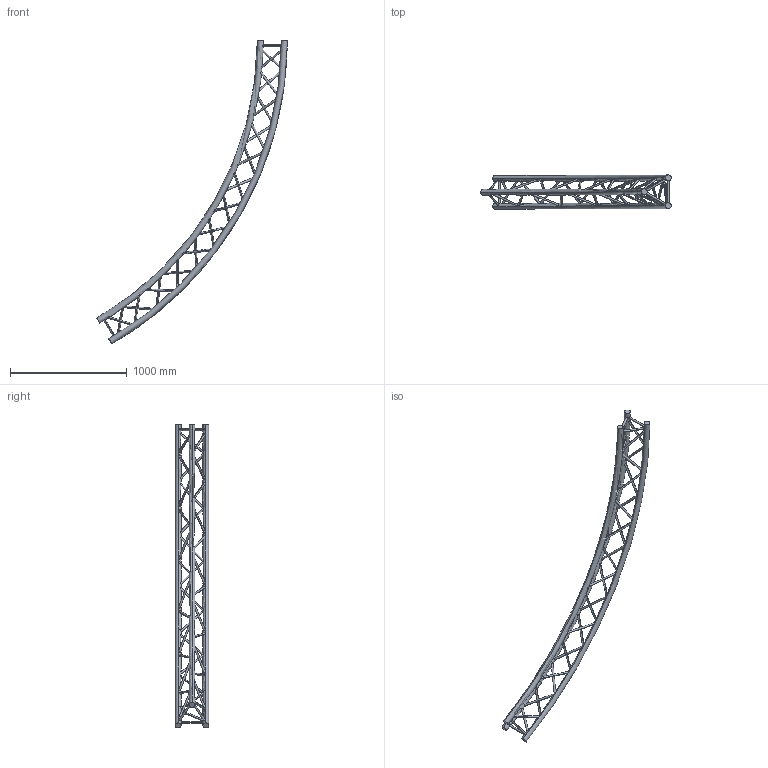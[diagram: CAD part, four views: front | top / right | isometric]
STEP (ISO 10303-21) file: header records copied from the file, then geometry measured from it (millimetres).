
FILE_DESCRIPTION (( 'STEP AP203' ), '1' );
FILE_NAME ('SXC29600PI.STEP', '2009-10-21T09:00:56', ( 'CEDIA' ), ( 'CEDIA INDUSTRIE' ), 'SwSTEP 2.0', 'SolidWorks 2009', '' );
FILE_SCHEMA (( 'CONFIG_CONTROL_DESIGN' ));
Length unit declared in the file: millimetre
Products named in the file (1): SXC29600PI
Bounding box: 1627.62 x 287 x 2598.08 mm (x, y, z)
Volume: 20187449.2 mm3; surface area: 1988434.3 mm2
Topology: 1 solids, 1 shells, 102 faces, 306 edges, 204 vertices
Faces by surface type: cylinder 90, torus 6, plane 6
Entity records: 11310 total; most frequent: CARTESIAN_POINT 8697, ORIENTED_EDGE 612, DIRECTION 332, EDGE_CURVE 306, VERTEX_POINT 204, EDGE_LOOP 186, B_SPLINE_CURVE_WITH_KNOTS 183, AXIS2_PLACEMENT_3D 121
